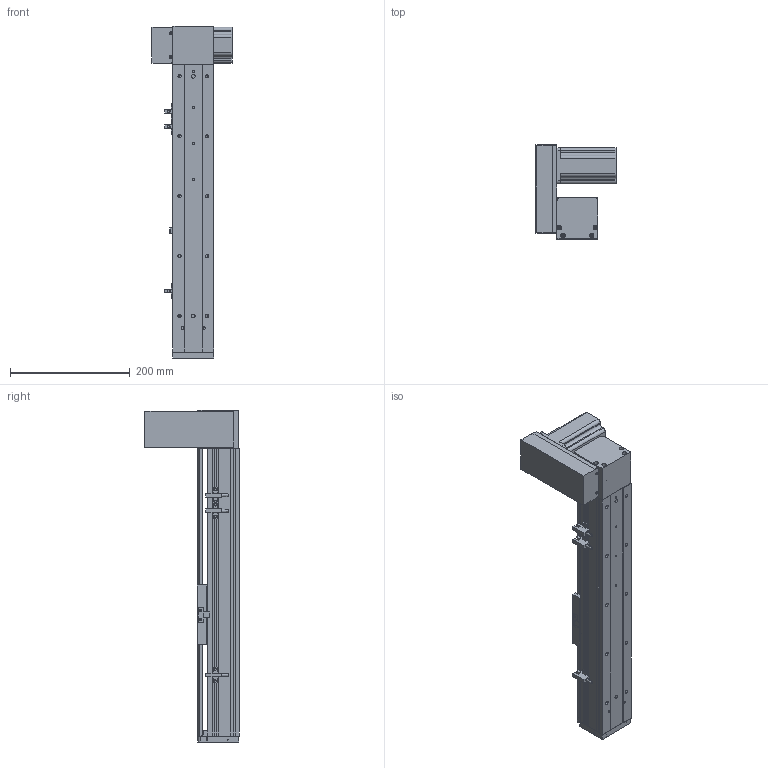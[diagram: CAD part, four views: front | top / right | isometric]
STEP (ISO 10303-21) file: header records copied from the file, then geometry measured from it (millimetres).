
FILE_DESCRIPTION (( 'STEP AP203' ), '1' );
FILE_NAME ('ML68-S300-UR.STEP', '2016-08-05T00:51:48', ( '' ), ( '' ), 'SwSTEP 2.0', 'SolidWorks 2014', '' );
FILE_SCHEMA (( 'CONFIG_CONTROL_DESIGN' ));
Length unit declared in the file: millimetre
Products named in the file (12): QS68左右折电机板罩子; ML68奻裔^ML68-S300-UR; ML68-S300-UR; ML68滅鳥啣盓傅輸; ML68傷啣; 三协电机MH201N2_預設; ML68雄赽釱; 60換覜結え; QS68酘衵殏萇儂啣; ML68-BL傷啣; 葩璃 ML68菁釱^ML68-S300-UR; 換覜ん
Assembly tree (13 placements, depth 2):
  ML68-S300-UR
    葩璃 ML68菁釱^ML68-S300-UR
    ML68奻裔^ML68-S300-UR
    ML68傷啣
    ML68-BL傷啣
    60換覜結え
    換覜ん  x3
    三协电机MH201N2_預設
    ML68雄赽釱
    QS68酘衵殏萇儂啣
    QS68左右折电机板罩子
    ML68滅鳥啣盓傅輸
Bounding box: 133.5 x 157 x 554 mm (x, y, z)
Volume: 1318292.7 mm3; surface area: 453869.9 mm2
Topology: 13 solids, 13 shells, 869 faces, 2376 edges, 1505 vertices
Faces by surface type: cylinder 392, plane 381, cone 96
Entity records: 27324 total; most frequent: CARTESIAN_POINT 5090, DIRECTION 4494, ORIENTED_EDGE 4252, EDGE_CURVE 2126, AXIS2_PLACEMENT_3D 1617, VERTEX_POINT 1393, LINE 1260, VECTOR 1260
